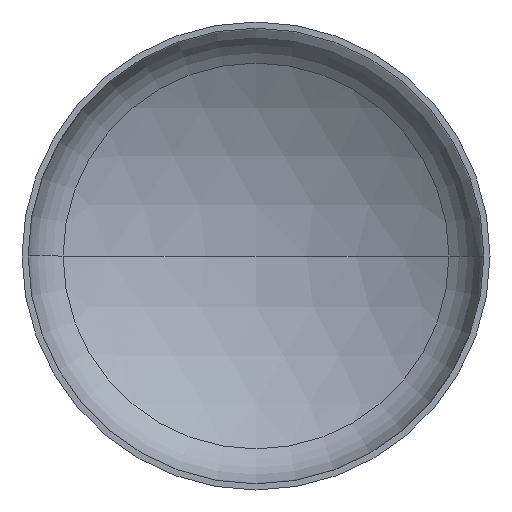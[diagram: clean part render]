
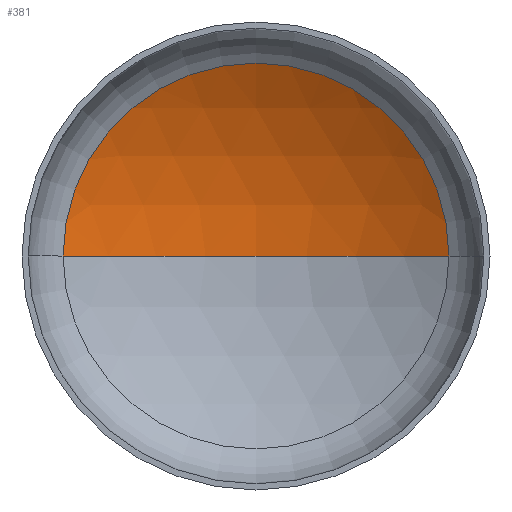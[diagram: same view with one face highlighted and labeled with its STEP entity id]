
A CAD part, front view. The second image highlights one B-rep face of the part: STEP entity #381.
In plain terms, the highlighted spherical face has radius 3040 mm.
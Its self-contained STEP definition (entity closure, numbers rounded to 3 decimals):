
#23 = AXIS2_PLACEMENT_3D ( 'NONE', #406, #262, #156 ) ;
#25 = AXIS2_PLACEMENT_3D ( 'NONE', #193, #163, #164 ) ;
#26 = AXIS2_PLACEMENT_3D ( 'NONE', #214, #206, #208 ) ;
#29 = EDGE_LOOP ( 'NONE', ( #212, #225, #377 ) ) ;
#47 = CARTESIAN_POINT ( 'NONE',  ( 0., -1953.996, 0. ) ) ;
#65 = EDGE_CURVE ( 'NONE', #114, #73, #350, .T. ) ;
#67 = EDGE_CURVE ( 'NONE', #85, #114, #202, .T. ) ;
#68 = DIRECTION ( 'NONE',  ( 0., 0., -1. ) ) ;
#73 = VERTEX_POINT ( 'NONE', #152 ) ;
#85 = VERTEX_POINT ( 'NONE', #198 ) ;
#89 = CIRCLE ( 'NONE', #23, 3040. ) ;
#92 = EDGE_CURVE ( 'NONE', #85, #73, #89, .T. ) ;
#114 = VERTEX_POINT ( 'NONE', #341 ) ;
#152 = CARTESIAN_POINT ( 'NONE',  ( -1566.436, 651.36, 0. ) ) ;
#156 = DIRECTION ( 'NONE',  ( 1., 0., 0. ) ) ;
#163 = DIRECTION ( 'NONE',  ( 0., 0., -1. ) ) ;
#164 = DIRECTION ( 'NONE',  ( -1., 0., 0. ) ) ;
#193 = CARTESIAN_POINT ( 'NONE',  ( 0., -1953.996, 0. ) ) ;
#198 = CARTESIAN_POINT ( 'NONE',  ( 0., 1086.004, 0. ) ) ;
#202 = CIRCLE ( 'NONE', #25, 3040. ) ;
#206 = DIRECTION ( 'NONE',  ( 0., -1., 0. ) ) ;
#208 = DIRECTION ( 'NONE',  ( 1., 0., 0. ) ) ;
#212 = ORIENTED_EDGE ( 'NONE', *, *, #92, .F. ) ;
#214 = CARTESIAN_POINT ( 'NONE',  ( 0., 651.36, 0. ) ) ;
#225 = ORIENTED_EDGE ( 'NONE', *, *, #67, .T. ) ;
#232 = FACE_OUTER_BOUND ( 'NONE', #29, .T. ) ;
#252 = DIRECTION ( 'NONE',  ( -1., 0., 0. ) ) ;
#262 = DIRECTION ( 'NONE',  ( 0., 0., 1. ) ) ;
#324 = AXIS2_PLACEMENT_3D ( 'NONE', #47, #68, #252 ) ;
#341 = CARTESIAN_POINT ( 'NONE',  ( 1566.436, 651.36, 0. ) ) ;
#350 = CIRCLE ( 'NONE', #26, 1566.436 ) ;
#359 = SPHERICAL_SURFACE ( 'NONE', #324, 3040. ) ;
#377 = ORIENTED_EDGE ( 'NONE', *, *, #65, .T. ) ;
#381 = ADVANCED_FACE ( 'NONE', ( #232 ), #359, .F. ) ;
#406 = CARTESIAN_POINT ( 'NONE',  ( 0., -1953.996, 0. ) ) ;
